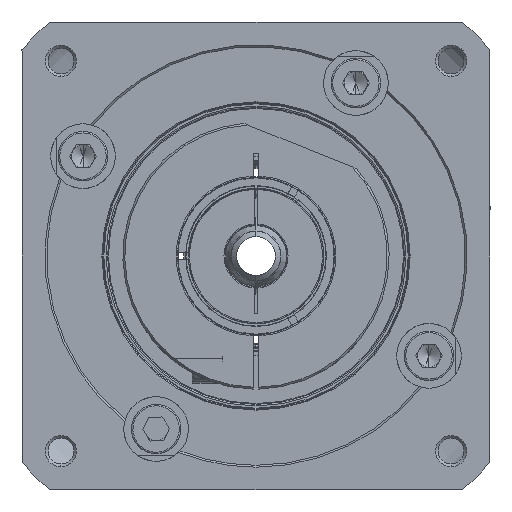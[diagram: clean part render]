
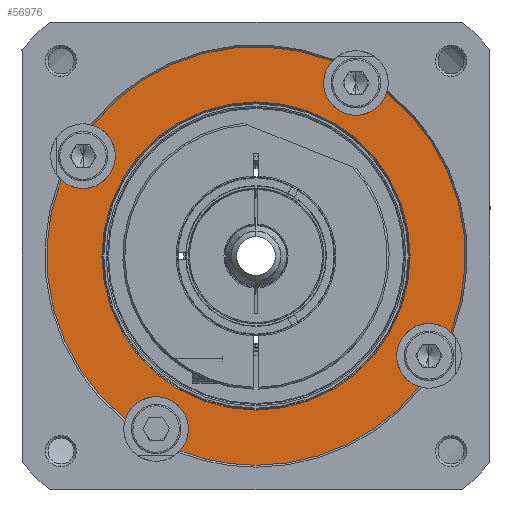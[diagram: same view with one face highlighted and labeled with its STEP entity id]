
A CAD part, left-side view. The second image highlights one B-rep face of the part: STEP entity #56976.
In plain terms, the highlighted planar face has unit normal (-1, 0, 0).
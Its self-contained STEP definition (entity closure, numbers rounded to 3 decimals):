
#453 = EDGE_CURVE ( 'NONE', #24480, #51338, #31912, .T. ) ;
#2564 = CARTESIAN_POINT ( 'NONE',  ( -140.5, 0., 0. ) ) ;
#2647 = AXIS2_PLACEMENT_3D ( 'NONE', #40029, #7068, #58754 ) ;
#3545 = CARTESIAN_POINT ( 'NONE',  ( -140.5, 20.005, -51.233 ) ) ;
#3612 = EDGE_LOOP ( 'NONE', ( #55136, #37359, #51188, #8060, #6653, #48262, #50569, #25381, #24701, #9933, #8955, #49987, #46659 ) ) ;
#3814 = CARTESIAN_POINT ( 'NONE',  ( -140.5, 0., 0. ) ) ;
#4677 = DIRECTION ( 'NONE',  ( -1., 0., 0. ) ) ;
#4924 = AXIS2_PLACEMENT_3D ( 'NONE', #32560, #4677, #51973 ) ;
#5349 = AXIS2_PLACEMENT_3D ( 'NONE', #31363, #55766, #31671 ) ;
#6309 = DIRECTION ( 'NONE',  ( -1., 0., 0. ) ) ;
#6581 = VERTEX_POINT ( 'NONE', #13038 ) ;
#6653 = ORIENTED_EDGE ( 'NONE', *, *, #19160, .T. ) ;
#7068 = DIRECTION ( 'NONE',  ( -1., 0., 0. ) ) ;
#7190 = CIRCLE ( 'NONE', #56201, 40.5 ) ;
#8012 = DIRECTION ( 'NONE',  ( -1., 0., 0. ) ) ;
#8060 = ORIENTED_EDGE ( 'NONE', *, *, #41109, .F. ) ;
#8955 = ORIENTED_EDGE ( 'NONE', *, *, #17352, .F. ) ;
#9169 = EDGE_CURVE ( 'NONE', #6581, #58927, #18647, .T. ) ;
#9306 = DIRECTION ( 'NONE',  ( 1., 0., 0. ) ) ;
#9437 = EDGE_CURVE ( 'NONE', #59638, #15018, #43667, .T. ) ;
#9504 = CARTESIAN_POINT ( 'NONE',  ( -140.5, 45.466, 17.75 ) ) ;
#9933 = ORIENTED_EDGE ( 'NONE', *, *, #48987, .F. ) ;
#10010 = VERTEX_POINT ( 'NONE', #14012 ) ;
#10488 = DIRECTION ( 'NONE',  ( 0., 0., -1. ) ) ;
#11310 = CIRCLE ( 'NONE', #53287, 55. ) ;
#11391 = CARTESIAN_POINT ( 'NONE',  ( -140.5, -20.005, 51.233 ) ) ;
#11630 = DIRECTION ( 'NONE',  ( 0., 0., -1. ) ) ;
#11731 = CARTESIAN_POINT ( 'NONE',  ( -140.5, 0., 40.5 ) ) ;
#11817 = CARTESIAN_POINT ( 'NONE',  ( -140.5, 0., 0. ) ) ;
#12434 = CARTESIAN_POINT ( 'NONE',  ( -140.5, 0., -55. ) ) ;
#12697 = VERTEX_POINT ( 'NONE', #47636 ) ;
#13038 = CARTESIAN_POINT ( 'NONE',  ( -140.5, -51.233, -20.005 ) ) ;
#13938 = CARTESIAN_POINT ( 'NONE',  ( -140.5, 26.25, -45.466 ) ) ;
#14012 = CARTESIAN_POINT ( 'NONE',  ( -140.5, -45.466, -17.75 ) ) ;
#14033 = CARTESIAN_POINT ( 'NONE',  ( -140.5, 0., 0. ) ) ;
#14242 = DIRECTION ( 'NONE',  ( 0., 0., -1. ) ) ;
#14471 = EDGE_LOOP ( 'NONE', ( #30375, #36966 ) ) ;
#15018 = VERTEX_POINT ( 'NONE', #51837 ) ;
#17352 = EDGE_CURVE ( 'NONE', #6581, #10010, #52095, .T. ) ;
#18486 = VERTEX_POINT ( 'NONE', #9504 ) ;
#18646 = DIRECTION ( 'NONE',  ( -1., 0., 0. ) ) ;
#18647 = CIRCLE ( 'NONE', #2647, 55. ) ;
#18685 = DIRECTION ( 'NONE',  ( 0., 0., -1. ) ) ;
#19160 = EDGE_CURVE ( 'NONE', #40331, #12697, #46336, .T. ) ;
#19265 = EDGE_CURVE ( 'NONE', #48384, #59638, #11310, .T. ) ;
#19546 = DIRECTION ( 'NONE',  ( -1., 0., 0. ) ) ;
#20408 = CARTESIAN_POINT ( 'NONE',  ( -140.5, 26.25, -45.466 ) ) ;
#21222 = DIRECTION ( 'NONE',  ( 0., 0., -1. ) ) ;
#22307 = DIRECTION ( 'NONE',  ( -1., 0., 0. ) ) ;
#24381 = EDGE_CURVE ( 'NONE', #46057, #12697, #58483, .T. ) ;
#24480 = VERTEX_POINT ( 'NONE', #11391 ) ;
#24701 = ORIENTED_EDGE ( 'NONE', *, *, #9437, .T. ) ;
#25381 = ORIENTED_EDGE ( 'NONE', *, *, #19265, .T. ) ;
#26598 = VERTEX_POINT ( 'NONE', #11731 ) ;
#27304 = PLANE ( 'NONE',  #35889 ) ;
#27354 = CIRCLE ( 'NONE', #5349, 8.5 ) ;
#27391 = CIRCLE ( 'NONE', #30400, 8.5 ) ;
#27776 = DIRECTION ( 'NONE',  ( -1., 0., 0. ) ) ;
#29294 = CARTESIAN_POINT ( 'NONE',  ( -140.5, -45.466, -26.25 ) ) ;
#29322 = CARTESIAN_POINT ( 'NONE',  ( -140.5, 45.466, 26.25 ) ) ;
#29627 = CARTESIAN_POINT ( 'NONE',  ( -140.5, -34.366, 42.941 ) ) ;
#30012 = DIRECTION ( 'NONE',  ( 1., 0., 0. ) ) ;
#30166 = CARTESIAN_POINT ( 'NONE',  ( -140.5, 45.466, 26.25 ) ) ;
#30375 = ORIENTED_EDGE ( 'NONE', *, *, #61233, .T. ) ;
#30400 = AXIS2_PLACEMENT_3D ( 'NONE', #30166, #49235, #44857 ) ;
#30667 = EDGE_CURVE ( 'NONE', #48384, #46057, #44838, .T. ) ;
#31363 = CARTESIAN_POINT ( 'NONE',  ( -140.5, -26.25, 45.466 ) ) ;
#31498 = EDGE_CURVE ( 'NONE', #59551, #58927, #49964, .T. ) ;
#31671 = DIRECTION ( 'NONE',  ( 0., 0., -1. ) ) ;
#31912 = CIRCLE ( 'NONE', #4924, 55. ) ;
#32313 = DIRECTION ( 'NONE',  ( 0., 0., -1. ) ) ;
#32547 = CARTESIAN_POINT ( 'NONE',  ( -140.5, 42.941, 34.366 ) ) ;
#32560 = CARTESIAN_POINT ( 'NONE',  ( -140.5, 0., 0. ) ) ;
#32993 = AXIS2_PLACEMENT_3D ( 'NONE', #50943, #8012, #60596 ) ;
#33326 = CIRCLE ( 'NONE', #58289, 40.5 ) ;
#34123 = EDGE_CURVE ( 'NONE', #26598, #34216, #7190, .T. ) ;
#34216 = VERTEX_POINT ( 'NONE', #53754 ) ;
#35483 = AXIS2_PLACEMENT_3D ( 'NONE', #13938, #53364, #14242 ) ;
#35889 = AXIS2_PLACEMENT_3D ( 'NONE', #2564, #50164, #46413 ) ;
#36707 = FACE_OUTER_BOUND ( 'NONE', #3612, .T. ) ;
#36966 = ORIENTED_EDGE ( 'NONE', *, *, #34123, .T. ) ;
#37359 = ORIENTED_EDGE ( 'NONE', *, *, #453, .T. ) ;
#38135 = CARTESIAN_POINT ( 'NONE',  ( -140.5, 0., 0. ) ) ;
#38375 = CIRCLE ( 'NONE', #57322, 8.5 ) ;
#40029 = CARTESIAN_POINT ( 'NONE',  ( -140.5, 0., 0. ) ) ;
#40114 = AXIS2_PLACEMENT_3D ( 'NONE', #48683, #18646, #57768 ) ;
#40331 = VERTEX_POINT ( 'NONE', #60640 ) ;
#40374 = AXIS2_PLACEMENT_3D ( 'NONE', #11817, #40375, #21222 ) ;
#40375 = DIRECTION ( 'NONE',  ( -1., 0., 0. ) ) ;
#40681 = AXIS2_PLACEMENT_3D ( 'NONE', #3814, #22307, #32313 ) ;
#41109 = EDGE_CURVE ( 'NONE', #40331, #18486, #38375, .T. ) ;
#41476 = EDGE_CURVE ( 'NONE', #18486, #51338, #27391, .T. ) ;
#41957 = CARTESIAN_POINT ( 'NONE',  ( -140.5, 26.25, -36.966 ) ) ;
#43667 = CIRCLE ( 'NONE', #40681, 55. ) ;
#44296 = DIRECTION ( 'NONE',  ( 0., 0., -1. ) ) ;
#44323 = DIRECTION ( 'NONE',  ( -1., 0., 0. ) ) ;
#44419 = AXIS2_PLACEMENT_3D ( 'NONE', #29294, #19546, #44296 ) ;
#44838 = CIRCLE ( 'NONE', #55792, 8.5 ) ;
#44857 = DIRECTION ( 'NONE',  ( 0., 0., -1. ) ) ;
#46057 = VERTEX_POINT ( 'NONE', #41957 ) ;
#46336 = CIRCLE ( 'NONE', #40374, 55. ) ;
#46413 = DIRECTION ( 'NONE',  ( 0., 0., -1. ) ) ;
#46659 = ORIENTED_EDGE ( 'NONE', *, *, #31498, .F. ) ;
#47636 = CARTESIAN_POINT ( 'NONE',  ( -140.5, 34.366, -42.941 ) ) ;
#48158 = DIRECTION ( 'NONE',  ( 0., 0., -1. ) ) ;
#48262 = ORIENTED_EDGE ( 'NONE', *, *, #24381, .F. ) ;
#48384 = VERTEX_POINT ( 'NONE', #3545 ) ;
#48683 = CARTESIAN_POINT ( 'NONE',  ( -140.5, -45.466, -26.25 ) ) ;
#48987 = EDGE_CURVE ( 'NONE', #10010, #15018, #53377, .T. ) ;
#49235 = DIRECTION ( 'NONE',  ( -1., 0., 0. ) ) ;
#49964 = CIRCLE ( 'NONE', #32993, 8.5 ) ;
#49987 = ORIENTED_EDGE ( 'NONE', *, *, #9169, .T. ) ;
#50164 = DIRECTION ( 'NONE',  ( -1., 0., 0. ) ) ;
#50569 = ORIENTED_EDGE ( 'NONE', *, *, #30667, .F. ) ;
#50943 = CARTESIAN_POINT ( 'NONE',  ( -140.5, -26.25, 45.466 ) ) ;
#51188 = ORIENTED_EDGE ( 'NONE', *, *, #41476, .F. ) ;
#51338 = VERTEX_POINT ( 'NONE', #32547 ) ;
#51837 = CARTESIAN_POINT ( 'NONE',  ( -140.5, -42.941, -34.366 ) ) ;
#51973 = DIRECTION ( 'NONE',  ( 0., 0., -1. ) ) ;
#52095 = CIRCLE ( 'NONE', #40114, 8.5 ) ;
#52857 = CARTESIAN_POINT ( 'NONE',  ( -140.5, 0., 0. ) ) ;
#53287 = AXIS2_PLACEMENT_3D ( 'NONE', #38135, #27776, #18685 ) ;
#53364 = DIRECTION ( 'NONE',  ( -1., 0., 0. ) ) ;
#53377 = CIRCLE ( 'NONE', #44419, 8.5 ) ;
#53754 = CARTESIAN_POINT ( 'NONE',  ( -140.5, 0., -40.5 ) ) ;
#54344 = EDGE_CURVE ( 'NONE', #24480, #59551, #27354, .T. ) ;
#55136 = ORIENTED_EDGE ( 'NONE', *, *, #54344, .F. ) ;
#55757 = FACE_BOUND ( 'NONE', #14471, .T. ) ;
#55766 = DIRECTION ( 'NONE',  ( -1., 0., 0. ) ) ;
#55792 = AXIS2_PLACEMENT_3D ( 'NONE', #20408, #6309, #11630 ) ;
#56201 = AXIS2_PLACEMENT_3D ( 'NONE', #14033, #9306, #48158 ) ;
#56976 = ADVANCED_FACE ( 'NONE', ( #36707, #55757 ), #27304, .T. ) ;
#57322 = AXIS2_PLACEMENT_3D ( 'NONE', #29322, #44323, #10488 ) ;
#57768 = DIRECTION ( 'NONE',  ( 0., 0., -1. ) ) ;
#58289 = AXIS2_PLACEMENT_3D ( 'NONE', #52857, #30012, #58474 ) ;
#58474 = DIRECTION ( 'NONE',  ( 0., 0., -1. ) ) ;
#58483 = CIRCLE ( 'NONE', #35483, 8.5 ) ;
#58754 = DIRECTION ( 'NONE',  ( 0., 0., -1. ) ) ;
#58776 = CARTESIAN_POINT ( 'NONE',  ( -140.5, -26.25, 36.966 ) ) ;
#58927 = VERTEX_POINT ( 'NONE', #29627 ) ;
#59551 = VERTEX_POINT ( 'NONE', #58776 ) ;
#59638 = VERTEX_POINT ( 'NONE', #12434 ) ;
#60596 = DIRECTION ( 'NONE',  ( 0., 0., -1. ) ) ;
#60640 = CARTESIAN_POINT ( 'NONE',  ( -140.5, 51.233, 20.005 ) ) ;
#61233 = EDGE_CURVE ( 'NONE', #34216, #26598, #33326, .T. ) ;
